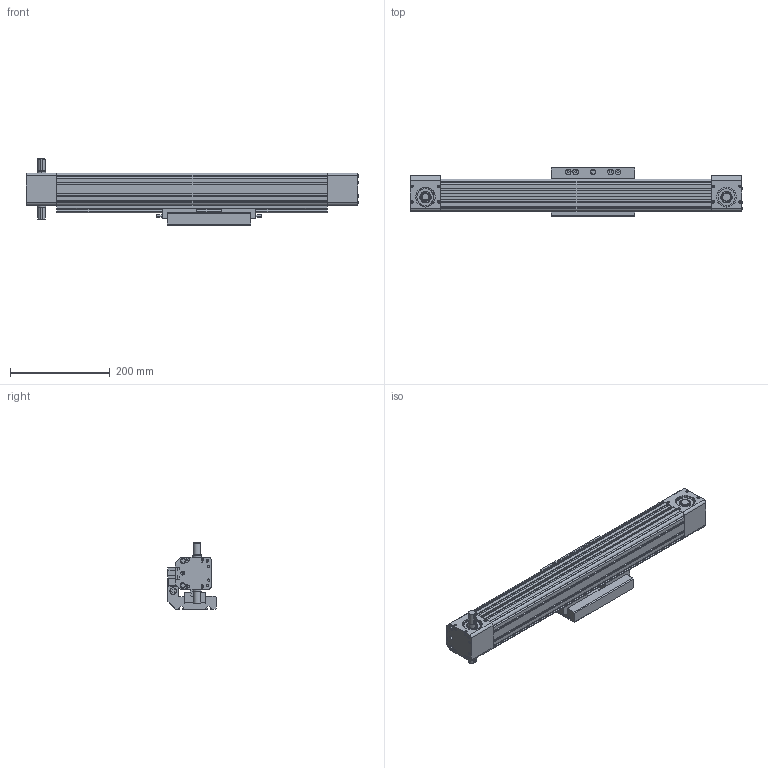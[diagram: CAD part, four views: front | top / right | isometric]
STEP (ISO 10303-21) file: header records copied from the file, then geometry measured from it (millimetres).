
FILE_DESCRIPTION((''),'2;1');
FILE_NAME('TCDH65-S300','2018-02-03T',('lenovo'),(''),'PRO/ENGINEER BY PARAMETRIC TECHNOLOGY CORPORATION, 2010280','PRO/ENGINEER BY PARAMETRIC TECHNOLOGY CORPORATION, 2010280','');
FILE_SCHEMA(('CONFIG_CONTROL_DESIGN'));
Products named in the file (1): TCDH65-S300
Bounding box: 666 x 96.5 x 132.5 mm (x, y, z)
Surface area: 621465.2 mm2 (no closed solid volume)
Topology: 0 solids, 42 shells, 2209 faces, 5858 edges, 3846 vertices
Faces by surface type: plane 1117, cylinder 810, cone 230, torus 52
Entity records: 69763 total; most frequent: CARTESIAN_POINT 13025, DIRECTION 12205, ORIENTED_EDGE 11638, EDGE_CURVE 5858, AXIS2_PLACEMENT_3D 4335, VERTEX_POINT 3846, VECTOR 3535, LINE 3535
